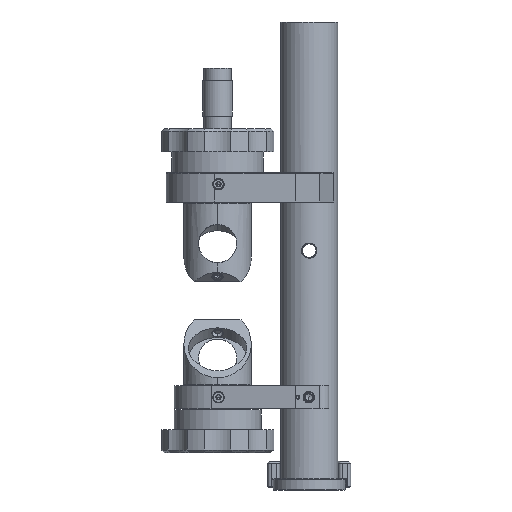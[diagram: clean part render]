
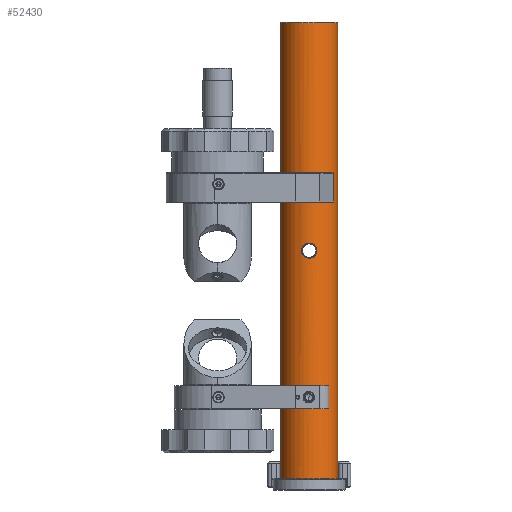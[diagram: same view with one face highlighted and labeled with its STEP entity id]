
A CAD part, front view. The second image highlights one B-rep face of the part: STEP entity #52430.
In plain terms, the highlighted cylindrical face has radius 12.5 mm (diameter 25 mm), a partial arc.
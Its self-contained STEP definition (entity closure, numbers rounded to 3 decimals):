
#49157=CARTESIAN_POINT('',(0.,-99.7,0.));
#49158=DIRECTION('',(0.,-1.,0.));
#49159=DIRECTION('',(1.,0.,0.));
#49160=AXIS2_PLACEMENT_3D('',#49157,#49158,#49159);
#49162=DIRECTION('',(0.,1.,0.));
#49163=VECTOR('',#49162,199.4);
#49164=CARTESIAN_POINT('',(-12.5,-99.7,
0.));
#49165=LINE('',#49164,#49163);
#49166=CARTESIAN_POINT('',(0.,99.7,0.));
#49167=DIRECTION('',(0.,1.,0.));
#49168=DIRECTION('',(-1.,0.,0.));
#49169=AXIS2_PLACEMENT_3D('',#49166,#49167,#49168);
#49171=CARTESIAN_POINT('',(0.,3.3,
12.5));
#49172=CARTESIAN_POINT('',(0.328,3.301,
12.5));
#49173=CARTESIAN_POINT('',(0.959,3.211,
12.475));
#49174=CARTESIAN_POINT('',(1.867,2.808,12.37));
#49175=CARTESIAN_POINT('',(2.614,2.166,12.229));
#49176=CARTESIAN_POINT('',(3.135,1.352,12.103));
#49177=CARTESIAN_POINT('',(3.393,0.454,
12.031));
#49178=CARTESIAN_POINT('',(3.391,-0.466,
12.031));
#49179=CARTESIAN_POINT('',(3.129,-1.364,
12.104));
#49180=CARTESIAN_POINT('',(2.606,-2.174,
12.231));
#49181=CARTESIAN_POINT('',(1.856,-2.817,
12.372));
#49182=CARTESIAN_POINT('',(0.94,-3.216,
12.476));
#49183=CARTESIAN_POINT('',(0.32,-3.302,
12.5));
#49184=CARTESIAN_POINT('',(0.,-3.3,
12.5));
#49186=CARTESIAN_POINT('',(0.,-3.3,
12.5));
#49187=CARTESIAN_POINT('',(-0.328,-3.301,
12.5));
#49188=CARTESIAN_POINT('',(-0.959,-3.211,
12.475));
#49189=CARTESIAN_POINT('',(-1.867,-2.808,
12.37));
#49190=CARTESIAN_POINT('',(-2.614,-2.166,
12.229));
#49191=CARTESIAN_POINT('',(-3.135,-1.352,
12.103));
#49192=CARTESIAN_POINT('',(-3.393,-0.454,
12.031));
#49193=CARTESIAN_POINT('',(-3.391,0.466,
12.031));
#49194=CARTESIAN_POINT('',(-3.129,1.364,
12.104));
#49195=CARTESIAN_POINT('',(-2.606,2.174,
12.231));
#49196=CARTESIAN_POINT('',(-1.856,2.817,
12.372));
#49197=CARTESIAN_POINT('',(-0.94,3.216,
12.476));
#49198=CARTESIAN_POINT('',(-0.32,3.302,
12.5));
#49199=CARTESIAN_POINT('',(0.,3.3,
12.5));
#49206=DIRECTION('',(0.,1.,0.));
#49207=VECTOR('',#49206,199.4);
#49208=CARTESIAN_POINT('',(12.5,-99.7,
0.));
#49209=LINE('',#49208,#49207);
#50759=CARTESIAN_POINT('',(-12.5,-99.7,0.));
#50760=CARTESIAN_POINT('',(12.5,-99.7,0.));
#50761=VERTEX_POINT('',#50759);
#50762=VERTEX_POINT('',#50760);
#50767=CARTESIAN_POINT('',(12.5,99.7,0.));
#50768=CARTESIAN_POINT('',(-12.5,99.7,0.));
#50769=VERTEX_POINT('',#50767);
#50770=VERTEX_POINT('',#50768);
#50771=VERTEX_POINT('',#49171);
#50772=VERTEX_POINT('',#49184);
#52410=CARTESIAN_POINT('',(0.,-100.,0.));
#52411=DIRECTION('',(0.,1.,0.));
#52412=DIRECTION('',(1.,0.,0.));
#52413=AXIS2_PLACEMENT_3D('',#52410,#52411,#52412);
#52414=CYLINDRICAL_SURFACE('',#52413,12.5);
#52415=ORIENTED_EDGE('',*,*,#52404,.T.);
#52417=ORIENTED_EDGE('',*,*,#52416,.T.);
#52419=ORIENTED_EDGE('',*,*,#52418,.T.);
#52421=ORIENTED_EDGE('',*,*,#52420,.F.);
#52422=EDGE_LOOP('',(#52415,#52417,#52419,#52421));
#52423=FACE_OUTER_BOUND('',#52422,.F.);
#52425=ORIENTED_EDGE('',*,*,#52424,.F.);
#52427=ORIENTED_EDGE('',*,*,#52426,.F.);
#52428=EDGE_LOOP('',(#52425,#52427));
#52429=FACE_BOUND('',#52428,.F.);
#52430=ADVANCED_FACE('',(#52423,#52429),#52414,.T.);
#49161=CIRCLE('',#49160,12.5);
#49170=CIRCLE('',#49169,12.5);
#49185=B_SPLINE_CURVE_WITH_KNOTS('',3,(#49171,#49172,#49173,#49174,#49175,
#49176,#49177,#49178,#49179,#49180,#49181,#49182,#49183,#49184),.UNSPECIFIED.,
.F.,.F.,(4,1,1,1,1,1,1,1,1,1,1,4),(0.,0.091,0.182,
0.273,0.364,0.455,0.545,
0.636,0.727,0.818,0.909,1.),
.UNSPECIFIED.);
#49200=B_SPLINE_CURVE_WITH_KNOTS('',3,(#49186,#49187,#49188,#49189,#49190,
#49191,#49192,#49193,#49194,#49195,#49196,#49197,#49198,#49199),.UNSPECIFIED.,
.F.,.F.,(4,1,1,1,1,1,1,1,1,1,1,4),(0.,0.091,0.182,
0.273,0.364,0.455,0.545,
0.636,0.727,0.818,0.909,1.),
.UNSPECIFIED.);
#52404=EDGE_CURVE('',#50762,#50761,#49161,.T.);
#52416=EDGE_CURVE('',#50761,#50770,#49165,.T.);
#52418=EDGE_CURVE('',#50770,#50769,#49170,.T.);
#52420=EDGE_CURVE('',#50762,#50769,#49209,.T.);
#52424=EDGE_CURVE('',#50771,#50772,#49185,.T.);
#52426=EDGE_CURVE('',#50772,#50771,#49200,.T.);
